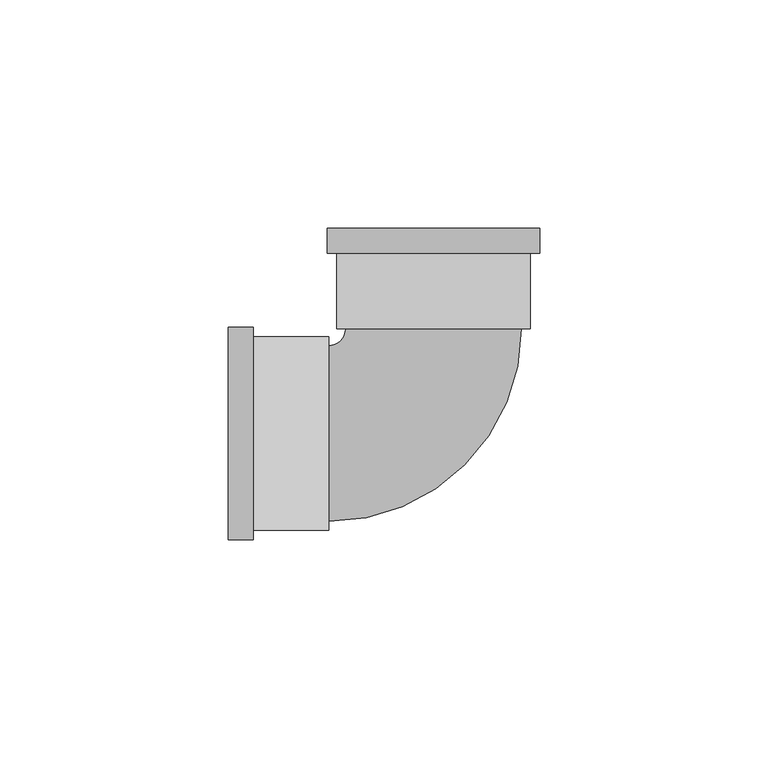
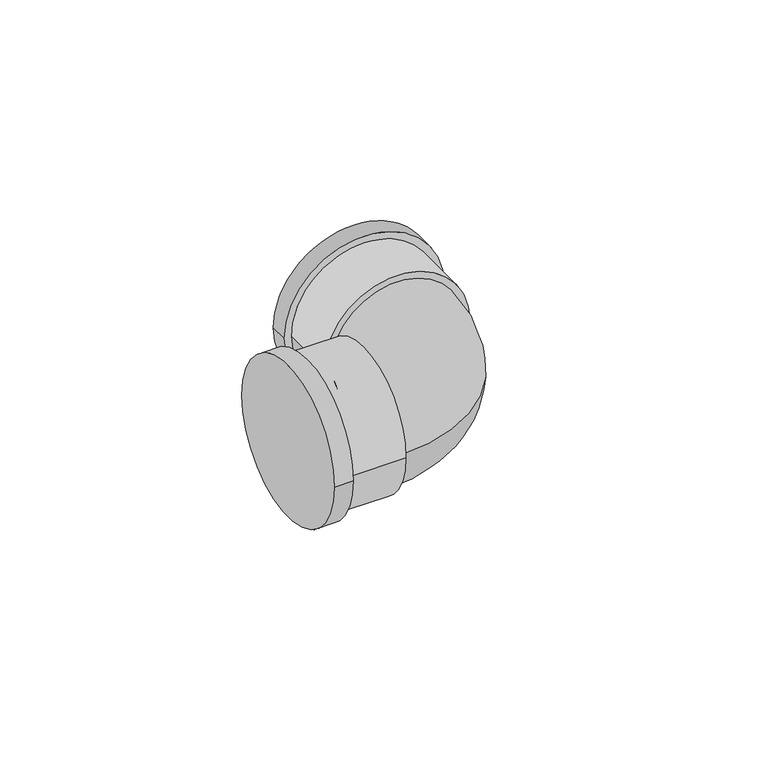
"""IFC4 building model written with IfcOpenShell, lengths in millimetres: pipe fitting geometry, Cotovelo - PVC - CW : Padrão."""

from ifc_helpers import new_model, si_unit, point, frame, origin, place, context, project, spatial, circle_curve, ellipse_curve, trimmed, source, transform, mapped, element, save
from ifc_brep_helpers import plane_surface, cylinder_surface, revolved_surface, advanced_brep


def pipe_fitting_bc9da119(model_context):
    return source(origin(), model_context, "Body", "AdvancedBrep", [
        advanced_brep(
        [(-45.0004448, -23.2925, 0.0), (-45.0004448, 23.2925, 0.0), (-39.5004448, -23.2925, 0.0), (-39.5004448, 23.2925, 0.0), (-39.5004448, -21.175, 0.0), (-39.5004448, 21.175, 0.0), (-23.0004448, 21.175, 0.0), (-23.0004448, -21.175, 0.0), (-23.0004448, -19.25, 0.0), (-23.0004448, 19.25, 0.0), (-19.2504448, 23.0000725, 0.0), (19.2495551, 23.0008172, 0.0), (21.1745551, 23.0008544, 0.0), (-21.1754448, 23.0000353, 0.0), (-23.2933704, 44.9999943, 0.0), (23.2916296, 45.0008953, 0.0), (21.174236, 39.5008544, 0.0), (-21.175764, 39.5000353, 0.0), (-23.293264, 39.4999943, 0.0), (23.291736, 39.5008953, 0.0)],
        [
            (0, 1, circle_curve(frame((-45.0004448, 0.0, 0.0), z_axis=(-1.0, 0.0, 0.0), x_axis=(0.0, 1.0, 0.0)), 23.2925)),
            (1, 0, circle_curve(frame((-45.0004448, 0.0, 0.0), z_axis=(-1.0, 0.0, 0.0), x_axis=(0.0, 1.0, 0.0)), 23.2925)),
            (2, 3, circle_curve(frame((-39.5004448, 0.0, 0.0), z_axis=(1.0, 0.0, 0.0), x_axis=(0.0, 1.0, 0.0)), 23.2925)),
            (3, 2, circle_curve(frame((-39.5004448, 0.0, 0.0), z_axis=(1.0, 0.0, 0.0), x_axis=(0.0, 1.0, 0.0)), 23.2925)),
            (4, 5, circle_curve(frame((-39.5004448, 0.0, 0.0), z_axis=(-1.0, 0.0, 0.0), x_axis=(0.0, -1.0, 0.0)), 21.175)),
            (5, 4, circle_curve(frame((-39.5004448, 0.0, 0.0), z_axis=(-1.0, 0.0, 0.0), x_axis=(0.0, -1.0, 0.0)), 21.175)),
            (0, 2),
            (3, 1),
            (6, 7, circle_curve(frame((-23.0004448, 0.0, 0.0), z_axis=(1.0, 0.0, 0.0), x_axis=(0.0, -1.0, 0.0)), 21.175)),
            (7, 6, circle_curve(frame((-23.0004448, 0.0, 0.0), z_axis=(1.0, 0.0, 0.0), x_axis=(0.0, -1.0, 0.0)), 21.175)),
            (8, 9, circle_curve(frame((-23.0004448, 0.0, 0.0), z_axis=(-1.0, 0.0, 0.0), x_axis=(0.0, 1.0, 0.0)), 19.25)),
            (9, 8, circle_curve(frame((-23.0004448, 0.0, 0.0), z_axis=(-1.0, 0.0, 0.0), x_axis=(0.0, 1.0, 0.0)), 19.25)),
            (6, 5),
            (4, 7),
            (10, 9, circle_curve(frame((-23.0004448, 23.0, 0.0), z_axis=(0.0, 0.0, -1.0), x_axis=(0.0, -1.0, 0.0)), 3.75)),
            (8, 11, circle_curve(frame((-23.0004448, 23.0, 0.0), z_axis=(0.0, 0.0, 1.0), x_axis=(0.0, -1.0, 0.0)), 42.25)),
            (11, 10, circle_curve(frame((-0.0004449, 23.0004448, 0.0), z_axis=(1.9341030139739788e-05, -0.9999999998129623, 0.0), x_axis=(-0.9999999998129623, -1.9341030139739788e-05, 0.0)), 19.25)),
            (10, 11, circle_curve(frame((-0.0004449, 23.0004448, 0.0), z_axis=(1.9341030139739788e-05, -0.9999999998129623, 0.0), x_axis=(-0.9999999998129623, -1.9341030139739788e-05, 0.0)), 19.25)),
            (12, 13, circle_curve(frame((-0.0004449, 23.0004448, 0.0), z_axis=(1.934103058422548e-05, -0.9999999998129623, 0.0), x_axis=(-0.9999999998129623, -1.934103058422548e-05, 0.0)), 21.175)),
            (13, 12, circle_curve(frame((-0.0004449, 23.0004448, 0.0), z_axis=(1.934103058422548e-05, -0.9999999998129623, 0.0), x_axis=(-0.9999999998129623, -1.934103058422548e-05, 0.0)), 21.175)),
            (14, 15, circle_curve(frame((-0.0008704, 45.0004448, 0.0), z_axis=(-1.934103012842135e-05, 0.9999999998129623, 0.0), x_axis=(0.9999999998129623, 1.934103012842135e-05, 0.0)), 23.2925)),
            (15, 14, circle_curve(frame((-0.0008704, 45.0004448, 0.0), z_axis=(-1.934103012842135e-05, 0.9999999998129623, 0.0), x_axis=(0.9999999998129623, 1.934103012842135e-05, 0.0)), 23.2925)),
            (12, 16),
            (16, 17, circle_curve(frame((-0.000764, 39.5004448, 0.0), z_axis=(1.934103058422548e-05, -0.9999999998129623, 0.0), x_axis=(-0.9999999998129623, -1.934103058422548e-05, 0.0)), 21.175)),
            (17, 13),
            (17, 16, circle_curve(frame((-0.000764, 39.5004448, 0.0), z_axis=(1.934103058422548e-05, -0.9999999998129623, 0.0), x_axis=(-0.9999999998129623, -1.934103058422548e-05, 0.0)), 21.175)),
            (18, 19, circle_curve(frame((-0.000764, 39.5004448, 0.0), z_axis=(1.934103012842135e-05, -0.9999999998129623, 0.0), x_axis=(0.9999999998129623, 1.934103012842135e-05, 0.0)), 23.2925)),
            (19, 18, circle_curve(frame((-0.000764, 39.5004448, 0.0), z_axis=(1.934103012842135e-05, -0.9999999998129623, 0.0), x_axis=(0.9999999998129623, 1.934103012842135e-05, 0.0)), 23.2925)),
            (14, 18),
            (19, 15),
        ],
        [
            plane_surface(frame((-45.0004448, 0.0, 0.0), z_axis=(-1.0, 0.0, 0.0), x_axis=(0.0, 0.0, 1.0))),
            plane_surface(frame((-39.5004448, 0.0, 0.0), z_axis=(1.0, 0.0, 0.0), x_axis=(0.0, 0.0, 1.0))),
            cylinder_surface(frame((-45.0004448, 0.0, 0.0), z_axis=(-1.0, 0.0, 0.0), x_axis=(0.0, 1.0, 0.0)), 23.2925),
            plane_surface(frame((-23.0004448, 0.0, 0.0), z_axis=(1.0, 0.0, 0.0), x_axis=(0.0, 0.0, 1.0))),
            cylinder_surface(frame((-23.0004448, 0.0, 0.0), z_axis=(1.0, 0.0, 0.0), x_axis=(0.0, -1.0, 0.0)), 21.175),
            revolved_surface(trimmed(ellipse_curve(frame((-23.0004448, 0.0, 0.0), z_axis=(-1.0, 0.0, 0.0), x_axis=(0.0, 1.0, 0.0)), 19.25, 19.25), [point((-23.0004448, -19.25, 0.0))], [point((-23.0004448, 19.25, 0.0))], True, "CARTESIAN"), (-23.0004448, 23.0, 0.0), (0.0, 0.0, 1.0)),
            revolved_surface(trimmed(ellipse_curve(frame((-23.0004448, 0.0, 0.0), z_axis=(-1.0, 0.0, 0.0), x_axis=(0.0, 1.0, 0.0)), 19.25, 19.25), [point((-23.0004448, 19.25, 0.0))], [point((-23.0004448, -19.25, 0.0))], True, "CARTESIAN"), (-23.0004448, 23.0, 0.0), (0.0, 0.0, 1.0)),
            plane_surface(frame((-0.0004449, 23.0004448, 0.0), z_axis=(1.934103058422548e-05, -0.9999999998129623, 0.0), x_axis=(0.0, 0.0, 1.0))),
            plane_surface(frame((-0.0008704, 45.0004448, 0.0), z_axis=(-1.934103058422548e-05, 0.9999999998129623, 0.0), x_axis=(0.0, 0.0, 1.0))),
            cylinder_surface(frame((-0.0004449, 23.0004448, 0.0), z_axis=(1.934103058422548e-05, -0.9999999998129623, 0.0), x_axis=(-0.9999999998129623, -1.934103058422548e-05, 0.0)), 21.175),
            plane_surface(frame((-0.000764, 39.5004448, 0.0), z_axis=(1.934103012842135e-05, -0.9999999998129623, 0.0), x_axis=(0.0, 0.0, 1.0))),
            cylinder_surface(frame((-0.0008704, 45.0004448, 0.0), z_axis=(-1.934103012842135e-05, 0.9999999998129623, 0.0), x_axis=(0.9999999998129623, 1.934103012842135e-05, 0.0)), 23.2925),
        ],
        [
            (0, [[1, 2]]),
            (1, [[3, 4], [5, 6]]),
            (2, [[-1, 7, -4, 8]]),
            (2, [[-2, -8, -3, -7]]),
            (3, [[9, 10], [11, 12]]),
            (4, [[-9, 13, -5, 14]]),
            (4, [[-10, -14, -6, -13]]),
            (5, [[15, -11, 16, 17]]),
            (6, [[-15, 18, -16, -12]]),
            (7, [[19, 20], [-17, -18]]),
            (8, [[21, 22]]),
            (9, [[-19, 23, 24, 25]]),
            (9, [[-20, -25, 26, -23]]),
            (10, [[27, 28], [-24, -26]]),
            (11, [[-21, 29, -28, 30]]),
            (11, [[-22, -30, -27, -29]]),
        ],
    ),
    ])


if __name__ == "__main__":
    model = new_model("IFC4")
    model_context = context("Model", 3, world=origin())
    ifc_project = project(units=[si_unit("LENGTHUNIT", "METRE", prefix="MILLI")], contexts=[model_context])
    site = spatial("IfcSite", under=ifc_project)
    building = spatial("IfcBuilding", under=site)
    placement = place(None, origin())
    pipe_fitting_shape = pipe_fitting_bc9da119(model_context)
    element("IfcPipeFitting", 1, ObjectType="Cotovelo - PVC - CW : Padrão", at=placement, inside=building, context=model_context, shape_type="MappedRepresentation", body=[
        mapped(pipe_fitting_shape, transform((0.0, 0.0, 0.0), x_axis=(1.0, 0.0, 0.0), y_axis=(0.0, 1.0, 0.0), z_axis=(0.0, 0.0, 1.0))),
    ])
    save(model, "model.ifc")
